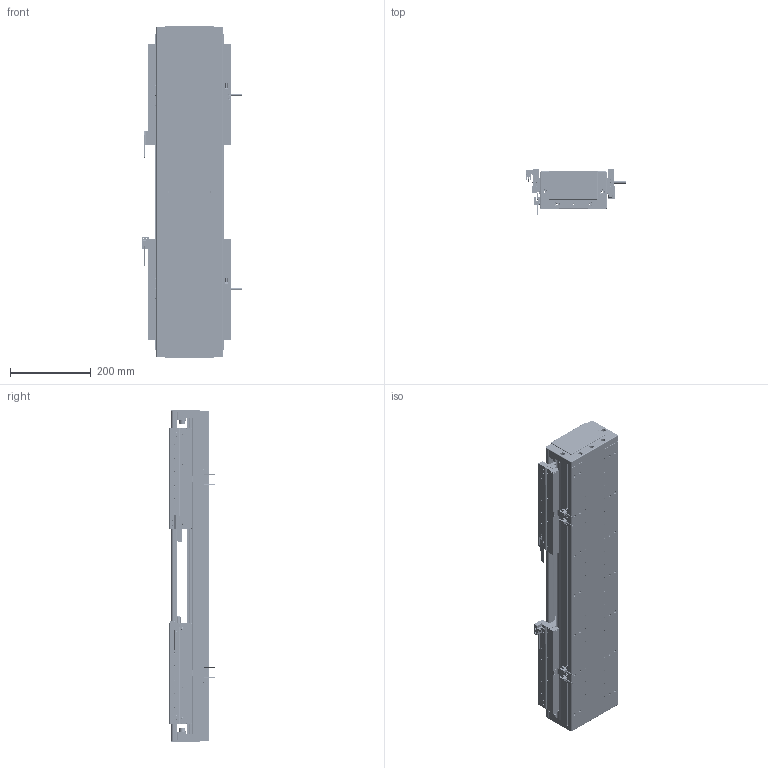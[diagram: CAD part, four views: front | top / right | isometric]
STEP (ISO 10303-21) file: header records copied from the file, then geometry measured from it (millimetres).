
FILE_DESCRIPTION (( 'STEP AP203' ), '1' );
FILE_NAME ('DA-C165-2-C3-T200-C010-0.2 直线电机.STEP', '2023-06-13T09:35:21', ( '微软用户' ), ( '微软中国' ), 'SwSTEP 2.0', 'SolidWorks 2019', '' );
FILE_SCHEMA (( 'CONFIG_CONTROL_DESIGN' ));
Length unit declared in the file: millimetre
Products named in the file (19): IU-CU165-L 菁釱絳寢; 葩璃 PM-T45^DA-C165-C3-T-C010-0.2-N 眻盄萇儂; 复件 DA165-DG-H-N-00 端盖^DA-C165-C3-T-C010-0.2-N 直线电机; DA-C165-2-C3-T200-C010-0.2 眻盄萇儂; 复件 DKW-HXJ-JY-00 缓冲橡胶^DA-C165-C3-T-C010-0.2-N 直线电机; 复件 XD-U-02L 磁栅尺^DA-C165-C3-T-C010-0.2-N 直线电机_T; 复件 DA165-T-002-00 盖板^DA-C165-C3-T-C010-0.2-N 直线电机_0840-002-00; 复件 DA165-GYP-00 光电感应片^DA-C165-C3-T-C010-0.2-N 直线电机; 葩璃 CKM01-W075-TRL^DA-C165-C3-T-C010-0.2-N 眻盄萇儂; 复件 CU165 底座^IU-CU165-L 底座导轨_L780; 复件 DA95-HXJ-00 缓冲橡胶^DA-C165-C3-T-C010-0.2-N 直线电机; 复件 DMA-010-0.2 读数头^DA-C165-C3-T-C010-0.2-N 直线电机; 珨极趙賑雄怢啣C3-wf; 复件 66338-1000-006-00 光电感应块^DA-C165-C3-T-C010-0.2-N 直线电机; 葩璃 PM-Y45^DA-C165-C3-T-C010-0.2-N 眻盄萇儂; 葩璃 CKM03-W075-C1C2-TP-3.0^DA-C165-C3-T-C010-0.2-N 眻盄萇儂; 复件 DA126-GYP-ZJ-00 中间光电感应片^DA-C165-C3-T-C010-0.2-N 直线电机; 葩璃 DA95-GT-T-00^IU-CU165-L 菁釱絳寢_T; 复件 六角薄螺母 M3^DA-C165-C3-T-C010-0.2-N 直线电机_GB_FASTENER_NUT_STNAB M3-C
Assembly tree (40 placements, depth 3):
  DA-C165-2-C3-T200-C010-0.2 眻盄萇儂
    IU-CU165-L 菁釱絳寢
      复件 CU165 底座^IU-CU165-L 底座导轨_L780
      葩璃 DA95-GT-T-00^IU-CU165-L 菁釱絳寢_T  x4
    复件 DA165-DG-H-N-00 端盖^DA-C165-C3-T-C010-0.2-N 直线电机  x2
    复件 DA95-HXJ-00 缓冲橡胶^DA-C165-C3-T-C010-0.2-N 直线电机  x4
    复件 DA165-T-002-00 盖板^DA-C165-C3-T-C010-0.2-N 直线电机_0840-002-00
    复件 XD-U-02L 磁栅尺^DA-C165-C3-T-C010-0.2-N 直线电机_T
    葩璃 PM-T45^DA-C165-C3-T-C010-0.2-N 眻盄萇儂  x4
    葩璃 CKM01-W075-TRL^DA-C165-C3-T-C010-0.2-N 眻盄萇儂
    复件 DMA-010-0.2 读数头^DA-C165-C3-T-C010-0.2-N 直线电机  x2
    复件 DA165-GYP-00 光电感应片^DA-C165-C3-T-C010-0.2-N 直线电机  x2
    复件 66338-1000-006-00 光电感应块^DA-C165-C3-T-C010-0.2-N 直线电机
    葩璃 PM-Y45^DA-C165-C3-T-C010-0.2-N 眻盄萇儂
    复件 DA126-GYP-ZJ-00 中间光电感应片^DA-C165-C3-T-C010-0.2-N 直线电机
    葩璃 CKM03-W075-C1C2-TP-3.0^DA-C165-C3-T-C010-0.2-N 眻盄萇儂  x2
    复件 DKW-HXJ-JY-00 缓冲橡胶^DA-C165-C3-T-C010-0.2-N 直线电机  x2
    复件 六角薄螺母 M3^DA-C165-C3-T-C010-0.2-N 直线电机_GB_FASTENER_NUT_STNAB M3-C  x8
    珨极趙賑雄怢啣C3-wf  x2
Bounding box: 247.2 x 111.45 x 820 mm (x, y, z)
Volume: 9116752.9 mm3; surface area: 2182682.4 mm2
Topology: 117 solids, 217 shells, 5638 faces, 14501 edges, 8858 vertices
Faces by surface type: cylinder 2616, plane 1970, cone 956, torus 88, sphere 8
Entity records: 104072 total; most frequent: CARTESIAN_POINT 23484, DIRECTION 16687, ORIENTED_EDGE 15888, EDGE_CURVE 7944, AXIS2_PLACEMENT_3D 6255, VERTEX_POINT 5112, LINE 4177, VECTOR 4177
